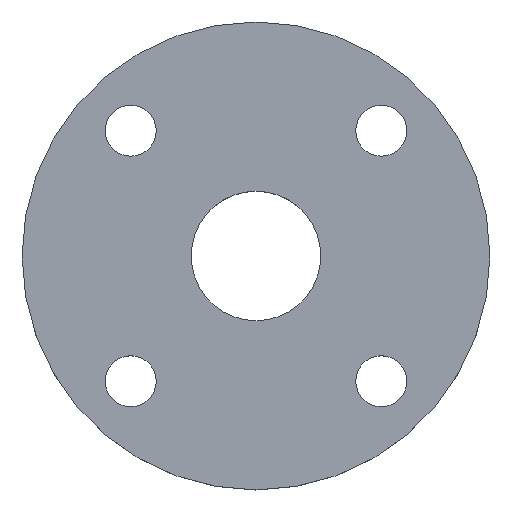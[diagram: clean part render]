
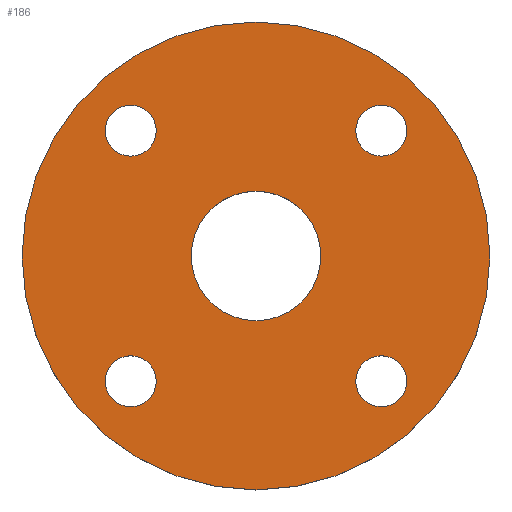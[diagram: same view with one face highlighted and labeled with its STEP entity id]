
A CAD part, top view. The second image highlights one B-rep face of the part: STEP entity #186.
In plain terms, the highlighted planar face has unit normal (0, 0, 1).
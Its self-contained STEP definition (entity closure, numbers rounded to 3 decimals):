
#13 = CIRCLE ( 'NONE', #109, 22.835 ) ;
#16 = EDGE_CURVE ( 'NONE', #313, #306, #114, .T. ) ;
#22 = CIRCLE ( 'NONE', #402, 9. ) ;
#23 = CIRCLE ( 'NONE', #331, 82.5 ) ;
#30 = EDGE_CURVE ( 'NONE', #306, #313, #23, .T. ) ;
#31 = CIRCLE ( 'NONE', #102, 9. ) ;
#34 = EDGE_CURVE ( 'NONE', #286, #325, #31, .T. ) ;
#35 = AXIS2_PLACEMENT_3D ( 'NONE', #476, #481, #482 ) ;
#36 = EDGE_CURVE ( 'NONE', #122, #175, #22, .T. ) ;
#47 = CIRCLE ( 'NONE', #544, 9. ) ;
#48 = AXIS2_PLACEMENT_3D ( 'NONE', #432, #433, #434 ) ;
#57 = DIRECTION ( 'NONE',  ( 0., 0., 1. ) ) ;
#64 = DIRECTION ( 'NONE',  ( 1., 0., 0. ) ) ;
#68 = CARTESIAN_POINT ( 'NONE',  ( 0., 0., 0. ) ) ;
#71 = EDGE_CURVE ( 'NONE', #321, #125, #316, .T. ) ;
#74 = DIRECTION ( 'NONE',  ( 1., 0., 0. ) ) ;
#78 = EDGE_CURVE ( 'NONE', #175, #122, #47, .T. ) ;
#102 = AXIS2_PLACEMENT_3D ( 'NONE', #412, #413, #414 ) ;
#105 = EDGE_CURVE ( 'NONE', #325, #286, #160, .T. ) ;
#109 = AXIS2_PLACEMENT_3D ( 'NONE', #68, #57, #74 ) ;
#111 = EDGE_CURVE ( 'NONE', #348, #311, #332, .T. ) ;
#114 = CIRCLE ( 'NONE', #170, 82.5 ) ;
#122 = VERTEX_POINT ( 'NONE', #499 ) ;
#123 = VERTEX_POINT ( 'NONE', #500 ) ;
#125 = VERTEX_POINT ( 'NONE', #502 ) ;
#140 = AXIS2_PLACEMENT_3D ( 'NONE', #145, #197, #64 ) ;
#145 = CARTESIAN_POINT ( 'NONE',  ( 0., 0., 0. ) ) ;
#160 = CIRCLE ( 'NONE', #35, 9. ) ;
#170 = AXIS2_PLACEMENT_3D ( 'NONE', #378, #379, #380 ) ;
#175 = VERTEX_POINT ( 'NONE', #521 ) ;
#180 = EDGE_CURVE ( 'NONE', #311, #348, #301, .T. ) ;
#186 = ADVANCED_FACE ( 'NONE', ( #534, #535, #536, #537, #538, #539 ), #541, .T. ) ;
#197 = DIRECTION ( 'NONE',  ( 0., 0., 1. ) ) ;
#203 = EDGE_CURVE ( 'NONE', #125, #321, #265, .T. ) ;
#207 = CIRCLE ( 'NONE', #140, 22.835 ) ;
#217 = ORIENTED_EDGE ( 'NONE', *, *, #34, .T. ) ;
#220 = ORIENTED_EDGE ( 'NONE', *, *, #105, .T. ) ;
#221 = ORIENTED_EDGE ( 'NONE', *, *, #78, .T. ) ;
#225 = ORIENTED_EDGE ( 'NONE', *, *, #36, .T. ) ;
#229 = ORIENTED_EDGE ( 'NONE', *, *, #111, .T. ) ;
#232 = ORIENTED_EDGE ( 'NONE', *, *, #180, .T. ) ;
#233 = ORIENTED_EDGE ( 'NONE', *, *, #71, .T. ) ;
#235 = ORIENTED_EDGE ( 'NONE', *, *, #203, .T. ) ;
#236 = ORIENTED_EDGE ( 'NONE', *, *, #597, .F. ) ;
#237 = ORIENTED_EDGE ( 'NONE', *, *, #439, .F. ) ;
#238 = ORIENTED_EDGE ( 'NONE', *, *, #16, .T. ) ;
#240 = ORIENTED_EDGE ( 'NONE', *, *, #30, .T. ) ;
#251 = AXIS2_PLACEMENT_3D ( 'NONE', #555, #556, #557 ) ;
#265 = CIRCLE ( 'NONE', #251, 9. ) ;
#272 = AXIS2_PLACEMENT_3D ( 'NONE', #542, #543, #545 ) ;
#276 = AXIS2_PLACEMENT_3D ( 'NONE', #531, #532, #533 ) ;
#286 = VERTEX_POINT ( 'NONE', #588 ) ;
#301 = CIRCLE ( 'NONE', #276, 9. ) ;
#304 = VERTEX_POINT ( 'NONE', #599 ) ;
#306 = VERTEX_POINT ( 'NONE', #600 ) ;
#311 = VERTEX_POINT ( 'NONE', #604 ) ;
#313 = VERTEX_POINT ( 'NONE', #605 ) ;
#316 = CIRCLE ( 'NONE', #48, 9. ) ;
#321 = VERTEX_POINT ( 'NONE', #614 ) ;
#322 = EDGE_LOOP ( 'NONE', ( #233, #235 ) ) ;
#325 = VERTEX_POINT ( 'NONE', #615 ) ;
#328 = AXIS2_PLACEMENT_3D ( 'NONE', #490, #491, #492 ) ;
#331 = AXIS2_PLACEMENT_3D ( 'NONE', #401, #404, #405 ) ;
#332 = CIRCLE ( 'NONE', #328, 9. ) ;
#345 = EDGE_LOOP ( 'NONE', ( #236, #237 ) ) ;
#347 = EDGE_LOOP ( 'NONE', ( #229, #232 ) ) ;
#348 = VERTEX_POINT ( 'NONE', #619 ) ;
#361 = EDGE_LOOP ( 'NONE', ( #217, #220 ) ) ;
#364 = EDGE_LOOP ( 'NONE', ( #221, #225 ) ) ;
#368 = EDGE_LOOP ( 'NONE', ( #238, #240 ) ) ;
#378 = CARTESIAN_POINT ( 'NONE',  ( 0., 0., 0. ) ) ;
#379 = DIRECTION ( 'NONE',  ( 0., 0., 1. ) ) ;
#380 = DIRECTION ( 'NONE',  ( 1., 0., 0. ) ) ;
#401 = CARTESIAN_POINT ( 'NONE',  ( 0., 0., 0. ) ) ;
#402 = AXIS2_PLACEMENT_3D ( 'NONE', #415, #416, #417 ) ;
#404 = DIRECTION ( 'NONE',  ( 0., 0., 1. ) ) ;
#405 = DIRECTION ( 'NONE',  ( 1., 0., 0. ) ) ;
#412 = CARTESIAN_POINT ( 'NONE',  ( 44.194, -44.194, 0. ) ) ;
#413 = DIRECTION ( 'NONE',  ( 0., 0., -1. ) ) ;
#414 = DIRECTION ( 'NONE',  ( -1., 0., 0. ) ) ;
#415 = CARTESIAN_POINT ( 'NONE',  ( -44.194, -44.194, 0. ) ) ;
#416 = DIRECTION ( 'NONE',  ( 0., 0., -1. ) ) ;
#417 = DIRECTION ( 'NONE',  ( -1., 0., 0. ) ) ;
#432 = CARTESIAN_POINT ( 'NONE',  ( 44.194, 44.194, 0. ) ) ;
#433 = DIRECTION ( 'NONE',  ( 0., 0., -1. ) ) ;
#434 = DIRECTION ( 'NONE',  ( -1., 0., 0. ) ) ;
#435 = CARTESIAN_POINT ( 'NONE',  ( -44.194, -44.194, 0. ) ) ;
#436 = DIRECTION ( 'NONE',  ( 0., 0., -1. ) ) ;
#437 = DIRECTION ( 'NONE',  ( -1., 0., 0. ) ) ;
#439 = EDGE_CURVE ( 'NONE', #304, #123, #207, .T. ) ;
#476 = CARTESIAN_POINT ( 'NONE',  ( 44.194, -44.194, 0. ) ) ;
#481 = DIRECTION ( 'NONE',  ( 0., 0., -1. ) ) ;
#482 = DIRECTION ( 'NONE',  ( -1., 0., 0. ) ) ;
#490 = CARTESIAN_POINT ( 'NONE',  ( -44.194, 44.194, 0. ) ) ;
#491 = DIRECTION ( 'NONE',  ( 0., 0., -1. ) ) ;
#492 = DIRECTION ( 'NONE',  ( -1., 0., 0. ) ) ;
#499 = CARTESIAN_POINT ( 'NONE',  ( -53.194, -44.194, 0. ) ) ;
#500 = CARTESIAN_POINT ( 'NONE',  ( 22.835, 0., 0. ) ) ;
#502 = CARTESIAN_POINT ( 'NONE',  ( 35.194, 44.194, 0. ) ) ;
#521 = CARTESIAN_POINT ( 'NONE',  ( -35.194, -44.194, 0. ) ) ;
#531 = CARTESIAN_POINT ( 'NONE',  ( -44.194, 44.194, 0. ) ) ;
#532 = DIRECTION ( 'NONE',  ( 0., 0., -1. ) ) ;
#533 = DIRECTION ( 'NONE',  ( -1., 0., 0. ) ) ;
#534 = FACE_BOUND ( 'NONE', #361, .T. ) ;
#535 = FACE_BOUND ( 'NONE', #364, .T. ) ;
#536 = FACE_BOUND ( 'NONE', #347, .T. ) ;
#537 = FACE_BOUND ( 'NONE', #322, .T. ) ;
#538 = FACE_BOUND ( 'NONE', #345, .T. ) ;
#539 = FACE_OUTER_BOUND ( 'NONE', #368, .T. ) ;
#541 = PLANE ( 'NONE',  #272 ) ;
#542 = CARTESIAN_POINT ( 'NONE',  ( 0., 0., 0. ) ) ;
#543 = DIRECTION ( 'NONE',  ( 0., 0., 1. ) ) ;
#544 = AXIS2_PLACEMENT_3D ( 'NONE', #435, #436, #437 ) ;
#545 = DIRECTION ( 'NONE',  ( 1., 0., 0. ) ) ;
#555 = CARTESIAN_POINT ( 'NONE',  ( 44.194, 44.194, 0. ) ) ;
#556 = DIRECTION ( 'NONE',  ( 0., 0., -1. ) ) ;
#557 = DIRECTION ( 'NONE',  ( -1., 0., 0. ) ) ;
#588 = CARTESIAN_POINT ( 'NONE',  ( 53.194, -44.194, 0. ) ) ;
#597 = EDGE_CURVE ( 'NONE', #123, #304, #13, .T. ) ;
#599 = CARTESIAN_POINT ( 'NONE',  ( -22.835, 0., 0. ) ) ;
#600 = CARTESIAN_POINT ( 'NONE',  ( -82.5, 0., 0. ) ) ;
#604 = CARTESIAN_POINT ( 'NONE',  ( -53.194, 44.194, 0. ) ) ;
#605 = CARTESIAN_POINT ( 'NONE',  ( 82.5, 0., 0. ) ) ;
#614 = CARTESIAN_POINT ( 'NONE',  ( 53.194, 44.194, 0. ) ) ;
#615 = CARTESIAN_POINT ( 'NONE',  ( 35.194, -44.194, 0. ) ) ;
#619 = CARTESIAN_POINT ( 'NONE',  ( -35.194, 44.194, 0. ) ) ;
